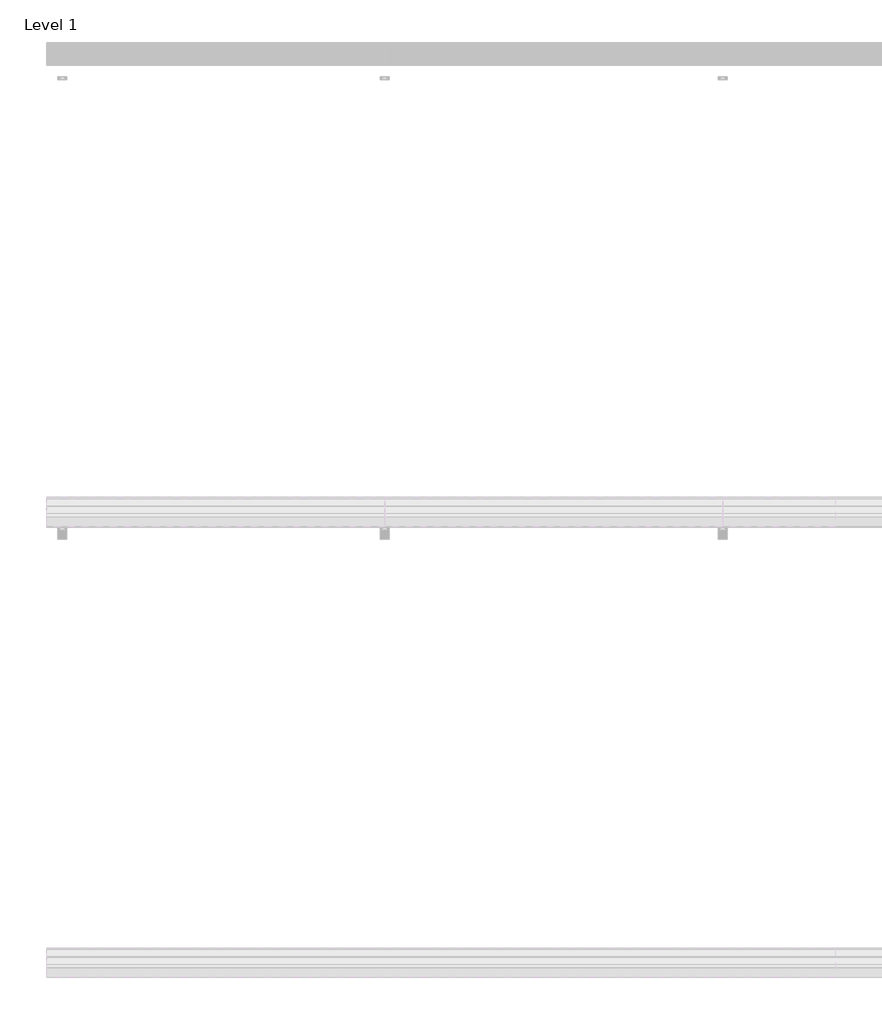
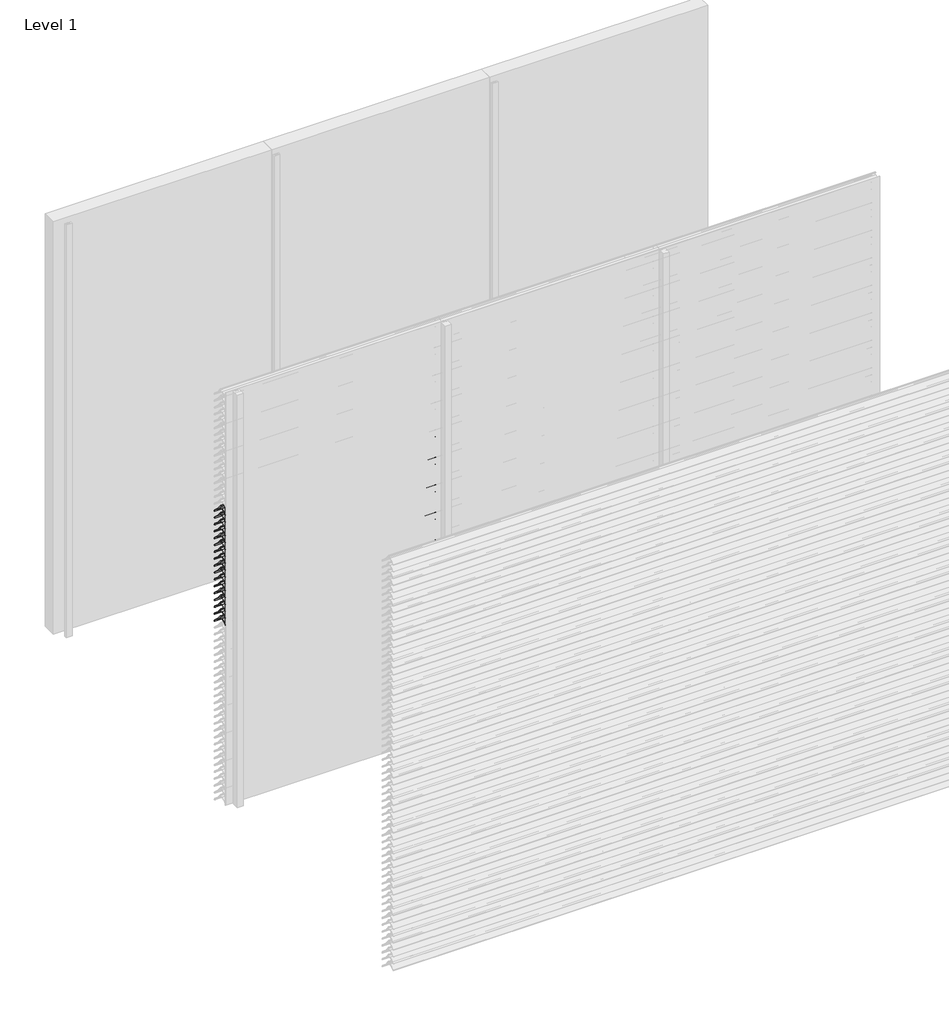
# One storey, part 76 of 173: 17 proxies.
"""IFC4 building model written with IfcOpenShell, lengths in millimetres."""

from ifc_helpers import new_model, si_unit, point, frame, frame_2d, origin, place, context, project, spatial, polyline, circle_curve, trimmed, segment, composite_curve, outline, extrude, element, save

model = new_model("IFC4")

# Units and contexts
model_context = context("Model", 3, world=origin())
ifc_project = project(units=[si_unit("LENGTHUNIT", "METRE", prefix="MILLI")], contexts=[model_context])

# Site, building, storey
site = spatial("IfcSite", under=ifc_project)
building = spatial("IfcBuilding", under=site)
storey = spatial("IfcBuildingStorey", under=building, Name="Level 1", Elevation=0.0)

# Proxies
placement = place(None, origin())
element("IfcBuildingElementProxy", 1, Name="Wall Sweeps", at=placement, inside=storey, context=model_context, shape_type="SweptSolid", body=[
    extrude(outline(composite_curve([segment(polyline([(-29998.0, 2109.1474905), (-29998.0, 2111.6227417)]), True, "CONTINUOUS"), segment(trimmed(circle_curve(frame_2d((-29951.2682172, 2066.2200208)), 65.1557103), [point((-29998.0, 2111.6227417))], [point((-29954.4014323, 2131.3003524))], False, "CARTESIAN"), True, "CONTINUOUS"), segment(polyline([(-29954.4014323, 2131.3003524), (-29934.8315836, 2131.3003524)]), True, "CONTINUOUS"), segment(trimmed(circle_curve(frame_2d((-29732.7329489, 2278.5533172)), 250.0545817), [point((-29934.8315836, 2131.3003524))], [point((-29941.4452143, 2140.8344583))], False, "CARTESIAN"), True, "CONTINUOUS"), segment(trimmed(circle_curve(frame_2d((-29953.2981792, 2135.1737835)), 13.1352966), [point((-29941.4452143, 2140.8344583))], [point((-29953.8171475, 2148.298824))], True, "CARTESIAN"), True, "CONTINUOUS"), segment(polyline([(-29953.8171475, 2148.298824), (-29953.8171475, 2150.0)]), True, "CONTINUOUS"), segment(trimmed(circle_curve(frame_2d((-29953.2981792, 2135.1737835)), 14.8352966), [point((-29953.8171475, 2150.0))], [point((-29939.9637661, 2141.6760487))], False, "CARTESIAN"), True, "CONTINUOUS"), segment(trimmed(circle_curve(frame_2d((-29732.7329489, 2278.5533172)), 248.3545817), [point((-29939.9637661, 2141.6760487))], [point((-29873.8787895, 2074.2059416))], True, "CARTESIAN"), True, "CONTINUOUS"), segment(trimmed(circle_curve(frame_2d((-29883.8147537, 2061.6649442)), 16.0), [point((-29873.8787895, 2074.2059416))], [point((-29867.8648347, 2060.4))], False, "CARTESIAN"), True, "CONTINUOUS"), segment(polyline([(-29867.8648347, 2060.4), (-29869.6712069, 2060.4)]), True, "CONTINUOUS"), segment(trimmed(circle_curve(frame_2d((-29883.8147537, 2061.6649442)), 14.2), [point((-29869.6712069, 2060.4))], [point((-29874.9518628, 2072.7594998))], True, "CARTESIAN"), True, "CONTINUOUS"), segment(trimmed(circle_curve(frame_2d((-29732.7329489, 2278.5533172)), 250.1545817), [point((-29874.9518628, 2072.7594998))], [point((-29933.7064024, 2129.6003524))], False, "CARTESIAN"), True, "CONTINUOUS"), segment(polyline([(-29933.7064024, 2129.6003524), (-29954.3602632, 2129.6003524)]), True, "CONTINUOUS"), segment(trimmed(circle_curve(frame_2d((-29951.2682172, 2066.2200208)), 63.4557103), [point((-29954.3602632, 2129.6003524))], [point((-29998.0, 2109.1474905))], True, "CARTESIAN"), True, "CONTINUOUS")], self_intersect=False)), frame((0.0, 0.0, 0.0), z_axis=(1.0, 0.0, 0.0), x_axis=(0.0, 1.0, 0.0)), (0.0, 0.0, 1.0), 1500.0),
])
element("IfcBuildingElementProxy", 2, Name="Wall Sweeps", at=placement, inside=storey, context=model_context, shape_type="SweptSolid", body=[
    extrude(outline(composite_curve([segment(polyline([(-29998.0, 2059.1474905), (-29998.0, 2061.6227417)]), True, "CONTINUOUS"), segment(trimmed(circle_curve(frame_2d((-29951.2682172, 2016.2200208)), 65.1557103), [point((-29998.0, 2061.6227417))], [point((-29954.4014323, 2081.3003524))], False, "CARTESIAN"), True, "CONTINUOUS"), segment(polyline([(-29954.4014323, 2081.3003524), (-29934.8315836, 2081.3003524)]), True, "CONTINUOUS"), segment(trimmed(circle_curve(frame_2d((-29732.7329489, 2228.5533172)), 250.0545817), [point((-29934.8315836, 2081.3003524))], [point((-29941.4452143, 2090.8344583))], False, "CARTESIAN"), True, "CONTINUOUS"), segment(trimmed(circle_curve(frame_2d((-29953.2981792, 2085.1737835)), 13.1352966), [point((-29941.4452143, 2090.8344583))], [point((-29953.8171475, 2098.298824))], True, "CARTESIAN"), True, "CONTINUOUS"), segment(polyline([(-29953.8171475, 2098.298824), (-29953.8171475, 2100.0)]), True, "CONTINUOUS"), segment(trimmed(circle_curve(frame_2d((-29953.2981792, 2085.1737835)), 14.8352966), [point((-29953.8171475, 2100.0))], [point((-29939.9637661, 2091.6760487))], False, "CARTESIAN"), True, "CONTINUOUS"), segment(trimmed(circle_curve(frame_2d((-29732.7329489, 2228.5533172)), 248.3545817), [point((-29939.9637661, 2091.6760487))], [point((-29873.8787895, 2024.2059416))], True, "CARTESIAN"), True, "CONTINUOUS"), segment(trimmed(circle_curve(frame_2d((-29883.8147537, 2011.6649442)), 16.0), [point((-29873.8787895, 2024.2059416))], [point((-29867.8648347, 2010.4))], False, "CARTESIAN"), True, "CONTINUOUS"), segment(polyline([(-29867.8648347, 2010.4), (-29869.6712069, 2010.4)]), True, "CONTINUOUS"), segment(trimmed(circle_curve(frame_2d((-29883.8147537, 2011.6649442)), 14.2), [point((-29869.6712069, 2010.4))], [point((-29874.9518628, 2022.7594998))], True, "CARTESIAN"), True, "CONTINUOUS"), segment(trimmed(circle_curve(frame_2d((-29732.7329489, 2228.5533172)), 250.1545817), [point((-29874.9518628, 2022.7594998))], [point((-29933.7064024, 2079.6003524))], False, "CARTESIAN"), True, "CONTINUOUS"), segment(polyline([(-29933.7064024, 2079.6003524), (-29954.3602632, 2079.6003524)]), True, "CONTINUOUS"), segment(trimmed(circle_curve(frame_2d((-29951.2682172, 2016.2200208)), 63.4557103), [point((-29954.3602632, 2079.6003524))], [point((-29998.0, 2059.1474905))], True, "CARTESIAN"), True, "CONTINUOUS")], self_intersect=False)), frame((0.0, 0.0, 0.0), z_axis=(1.0, 0.0, 0.0), x_axis=(0.0, 1.0, 0.0)), (0.0, 0.0, 1.0), 1500.0),
])
element("IfcBuildingElementProxy", 3, Name="Wall Sweeps", at=placement, inside=storey, context=model_context, shape_type="SweptSolid", body=[
    extrude(outline(composite_curve([segment(polyline([(-29998.0, 2009.1474905), (-29998.0, 2011.6227417)]), True, "CONTINUOUS"), segment(trimmed(circle_curve(frame_2d((-29951.2682172, 1966.2200208)), 65.1557103), [point((-29998.0, 2011.6227417))], [point((-29954.4014323, 2031.3003524))], False, "CARTESIAN"), True, "CONTINUOUS"), segment(polyline([(-29954.4014323, 2031.3003524), (-29934.8315836, 2031.3003524)]), True, "CONTINUOUS"), segment(trimmed(circle_curve(frame_2d((-29732.7329489, 2178.5533172)), 250.0545817), [point((-29934.8315836, 2031.3003524))], [point((-29941.4452143, 2040.8344583))], False, "CARTESIAN"), True, "CONTINUOUS"), segment(trimmed(circle_curve(frame_2d((-29953.2981792, 2035.1737835)), 13.1352966), [point((-29941.4452143, 2040.8344583))], [point((-29953.8171475, 2048.298824))], True, "CARTESIAN"), True, "CONTINUOUS"), segment(polyline([(-29953.8171475, 2048.298824), (-29953.8171475, 2050.0)]), True, "CONTINUOUS"), segment(trimmed(circle_curve(frame_2d((-29953.2981792, 2035.1737835)), 14.8352966), [point((-29953.8171475, 2050.0))], [point((-29939.9637661, 2041.6760487))], False, "CARTESIAN"), True, "CONTINUOUS"), segment(trimmed(circle_curve(frame_2d((-29732.7329489, 2178.5533172)), 248.3545817), [point((-29939.9637661, 2041.6760487))], [point((-29873.8787895, 1974.2059416))], True, "CARTESIAN"), True, "CONTINUOUS"), segment(trimmed(circle_curve(frame_2d((-29883.8147537, 1961.6649442)), 16.0), [point((-29873.8787895, 1974.2059416))], [point((-29867.8648347, 1960.4))], False, "CARTESIAN"), True, "CONTINUOUS"), segment(polyline([(-29867.8648347, 1960.4), (-29869.6712069, 1960.4)]), True, "CONTINUOUS"), segment(trimmed(circle_curve(frame_2d((-29883.8147537, 1961.6649442)), 14.2), [point((-29869.6712069, 1960.4))], [point((-29874.9518628, 1972.7594998))], True, "CARTESIAN"), True, "CONTINUOUS"), segment(trimmed(circle_curve(frame_2d((-29732.7329489, 2178.5533172)), 250.1545817), [point((-29874.9518628, 1972.7594998))], [point((-29933.7064024, 2029.6003524))], False, "CARTESIAN"), True, "CONTINUOUS"), segment(polyline([(-29933.7064024, 2029.6003524), (-29954.3602632, 2029.6003524)]), True, "CONTINUOUS"), segment(trimmed(circle_curve(frame_2d((-29951.2682172, 1966.2200208)), 63.4557103), [point((-29954.3602632, 2029.6003524))], [point((-29998.0, 2009.1474905))], True, "CARTESIAN"), True, "CONTINUOUS")], self_intersect=False)), frame((0.0, 0.0, 0.0), z_axis=(1.0, 0.0, 0.0), x_axis=(0.0, 1.0, 0.0)), (0.0, 0.0, 1.0), 1500.0),
])
element("IfcBuildingElementProxy", 4, Name="Wall Sweeps", at=placement, inside=storey, context=model_context, shape_type="SweptSolid", body=[
    extrude(outline(composite_curve([segment(polyline([(-29998.0, 1959.1474905), (-29998.0, 1961.6227417)]), True, "CONTINUOUS"), segment(trimmed(circle_curve(frame_2d((-29951.2682172, 1916.2200208)), 65.1557103), [point((-29998.0, 1961.6227417))], [point((-29954.4014323, 1981.3003524))], False, "CARTESIAN"), True, "CONTINUOUS"), segment(polyline([(-29954.4014323, 1981.3003524), (-29934.8315836, 1981.3003524)]), True, "CONTINUOUS"), segment(trimmed(circle_curve(frame_2d((-29732.7329489, 2128.5533172)), 250.0545817), [point((-29934.8315836, 1981.3003524))], [point((-29941.4452143, 1990.8344583))], False, "CARTESIAN"), True, "CONTINUOUS"), segment(trimmed(circle_curve(frame_2d((-29953.2981792, 1985.1737835)), 13.1352966), [point((-29941.4452143, 1990.8344583))], [point((-29953.8171475, 1998.298824))], True, "CARTESIAN"), True, "CONTINUOUS"), segment(polyline([(-29953.8171475, 1998.298824), (-29953.8171475, 2000.0)]), True, "CONTINUOUS"), segment(trimmed(circle_curve(frame_2d((-29953.2981792, 1985.1737835)), 14.8352966), [point((-29953.8171475, 2000.0))], [point((-29939.9637661, 1991.6760487))], False, "CARTESIAN"), True, "CONTINUOUS"), segment(trimmed(circle_curve(frame_2d((-29732.7329489, 2128.5533172)), 248.3545817), [point((-29939.9637661, 1991.6760487))], [point((-29873.8787895, 1924.2059416))], True, "CARTESIAN"), True, "CONTINUOUS"), segment(trimmed(circle_curve(frame_2d((-29883.8147537, 1911.6649442)), 16.0), [point((-29873.8787895, 1924.2059416))], [point((-29867.8648347, 1910.4))], False, "CARTESIAN"), True, "CONTINUOUS"), segment(polyline([(-29867.8648347, 1910.4), (-29869.6712069, 1910.4)]), True, "CONTINUOUS"), segment(trimmed(circle_curve(frame_2d((-29883.8147537, 1911.6649442)), 14.2), [point((-29869.6712069, 1910.4))], [point((-29874.9518628, 1922.7594998))], True, "CARTESIAN"), True, "CONTINUOUS"), segment(trimmed(circle_curve(frame_2d((-29732.7329489, 2128.5533172)), 250.1545817), [point((-29874.9518628, 1922.7594998))], [point((-29933.7064024, 1979.6003524))], False, "CARTESIAN"), True, "CONTINUOUS"), segment(polyline([(-29933.7064024, 1979.6003524), (-29954.3602632, 1979.6003524)]), True, "CONTINUOUS"), segment(trimmed(circle_curve(frame_2d((-29951.2682172, 1916.2200208)), 63.4557103), [point((-29954.3602632, 1979.6003524))], [point((-29998.0, 1959.1474905))], True, "CARTESIAN"), True, "CONTINUOUS")], self_intersect=False)), frame((0.0, 0.0, 0.0), z_axis=(1.0, 0.0, 0.0), x_axis=(0.0, 1.0, 0.0)), (0.0, 0.0, 1.0), 1500.0),
])
element("IfcBuildingElementProxy", 5, Name="Wall Sweeps", at=placement, inside=storey, context=model_context, shape_type="SweptSolid", body=[
    extrude(outline(composite_curve([segment(polyline([(-29998.0, 1909.1474905), (-29998.0, 1911.6227417)]), True, "CONTINUOUS"), segment(trimmed(circle_curve(frame_2d((-29951.2682172, 1866.2200208)), 65.1557103), [point((-29998.0, 1911.6227417))], [point((-29954.4014323, 1931.3003524))], False, "CARTESIAN"), True, "CONTINUOUS"), segment(polyline([(-29954.4014323, 1931.3003524), (-29934.8315836, 1931.3003524)]), True, "CONTINUOUS"), segment(trimmed(circle_curve(frame_2d((-29732.7329489, 2078.5533172)), 250.0545817), [point((-29934.8315836, 1931.3003524))], [point((-29941.4452143, 1940.8344583))], False, "CARTESIAN"), True, "CONTINUOUS"), segment(trimmed(circle_curve(frame_2d((-29953.2981792, 1935.1737835)), 13.1352966), [point((-29941.4452143, 1940.8344583))], [point((-29953.8171475, 1948.298824))], True, "CARTESIAN"), True, "CONTINUOUS"), segment(polyline([(-29953.8171475, 1948.298824), (-29953.8171475, 1950.0)]), True, "CONTINUOUS"), segment(trimmed(circle_curve(frame_2d((-29953.2981792, 1935.1737835)), 14.8352966), [point((-29953.8171475, 1950.0))], [point((-29939.9637661, 1941.6760487))], False, "CARTESIAN"), True, "CONTINUOUS"), segment(trimmed(circle_curve(frame_2d((-29732.7329489, 2078.5533172)), 248.3545817), [point((-29939.9637661, 1941.6760487))], [point((-29873.8787895, 1874.2059416))], True, "CARTESIAN"), True, "CONTINUOUS"), segment(trimmed(circle_curve(frame_2d((-29883.8147537, 1861.6649442)), 16.0), [point((-29873.8787895, 1874.2059416))], [point((-29867.8648347, 1860.4))], False, "CARTESIAN"), True, "CONTINUOUS"), segment(polyline([(-29867.8648347, 1860.4), (-29869.6712069, 1860.4)]), True, "CONTINUOUS"), segment(trimmed(circle_curve(frame_2d((-29883.8147537, 1861.6649442)), 14.2), [point((-29869.6712069, 1860.4))], [point((-29874.9518628, 1872.7594998))], True, "CARTESIAN"), True, "CONTINUOUS"), segment(trimmed(circle_curve(frame_2d((-29732.7329489, 2078.5533172)), 250.1545817), [point((-29874.9518628, 1872.7594998))], [point((-29933.7064024, 1929.6003524))], False, "CARTESIAN"), True, "CONTINUOUS"), segment(polyline([(-29933.7064024, 1929.6003524), (-29954.3602632, 1929.6003524)]), True, "CONTINUOUS"), segment(trimmed(circle_curve(frame_2d((-29951.2682172, 1866.2200208)), 63.4557103), [point((-29954.3602632, 1929.6003524))], [point((-29998.0, 1909.1474905))], True, "CARTESIAN"), True, "CONTINUOUS")], self_intersect=False)), frame((0.0, 0.0, 0.0), z_axis=(1.0, 0.0, 0.0), x_axis=(0.0, 1.0, 0.0)), (0.0, 0.0, 1.0), 1500.0),
])
element("IfcBuildingElementProxy", 6, Name="Wall Sweeps", at=placement, inside=storey, context=model_context, shape_type="SweptSolid", body=[
    extrude(outline(composite_curve([segment(polyline([(-29998.0, 1859.1474905), (-29998.0, 1861.6227417)]), True, "CONTINUOUS"), segment(trimmed(circle_curve(frame_2d((-29951.2682172, 1816.2200208)), 65.1557103), [point((-29998.0, 1861.6227417))], [point((-29954.4014323, 1881.3003524))], False, "CARTESIAN"), True, "CONTINUOUS"), segment(polyline([(-29954.4014323, 1881.3003524), (-29934.8315836, 1881.3003524)]), True, "CONTINUOUS"), segment(trimmed(circle_curve(frame_2d((-29732.7329489, 2028.5533172)), 250.0545817), [point((-29934.8315836, 1881.3003524))], [point((-29941.4452143, 1890.8344583))], False, "CARTESIAN"), True, "CONTINUOUS"), segment(trimmed(circle_curve(frame_2d((-29953.2981792, 1885.1737835)), 13.1352966), [point((-29941.4452143, 1890.8344583))], [point((-29953.8171475, 1898.298824))], True, "CARTESIAN"), True, "CONTINUOUS"), segment(polyline([(-29953.8171475, 1898.298824), (-29953.8171475, 1900.0)]), True, "CONTINUOUS"), segment(trimmed(circle_curve(frame_2d((-29953.2981792, 1885.1737835)), 14.8352966), [point((-29953.8171475, 1900.0))], [point((-29939.9637661, 1891.6760487))], False, "CARTESIAN"), True, "CONTINUOUS"), segment(trimmed(circle_curve(frame_2d((-29732.7329489, 2028.5533172)), 248.3545817), [point((-29939.9637661, 1891.6760487))], [point((-29873.8787895, 1824.2059416))], True, "CARTESIAN"), True, "CONTINUOUS"), segment(trimmed(circle_curve(frame_2d((-29883.8147537, 1811.6649442)), 16.0), [point((-29873.8787895, 1824.2059416))], [point((-29867.8648347, 1810.4))], False, "CARTESIAN"), True, "CONTINUOUS"), segment(polyline([(-29867.8648347, 1810.4), (-29869.6712069, 1810.4)]), True, "CONTINUOUS"), segment(trimmed(circle_curve(frame_2d((-29883.8147537, 1811.6649442)), 14.2), [point((-29869.6712069, 1810.4))], [point((-29874.9518628, 1822.7594998))], True, "CARTESIAN"), True, "CONTINUOUS"), segment(trimmed(circle_curve(frame_2d((-29732.7329489, 2028.5533172)), 250.1545817), [point((-29874.9518628, 1822.7594998))], [point((-29933.7064024, 1879.6003524))], False, "CARTESIAN"), True, "CONTINUOUS"), segment(polyline([(-29933.7064024, 1879.6003524), (-29954.3602632, 1879.6003524)]), True, "CONTINUOUS"), segment(trimmed(circle_curve(frame_2d((-29951.2682172, 1816.2200208)), 63.4557103), [point((-29954.3602632, 1879.6003524))], [point((-29998.0, 1859.1474905))], True, "CARTESIAN"), True, "CONTINUOUS")], self_intersect=False)), frame((0.0, 0.0, 0.0), z_axis=(1.0, 0.0, 0.0), x_axis=(0.0, 1.0, 0.0)), (0.0, 0.0, 1.0), 1500.0),
])
element("IfcBuildingElementProxy", 7, Name="Wall Sweeps", at=placement, inside=storey, context=model_context, shape_type="SweptSolid", body=[
    extrude(outline(composite_curve([segment(polyline([(-29998.0, 1809.1474905), (-29998.0, 1811.6227417)]), True, "CONTINUOUS"), segment(trimmed(circle_curve(frame_2d((-29951.2682172, 1766.2200208)), 65.1557103), [point((-29998.0, 1811.6227417))], [point((-29954.4014323, 1831.3003524))], False, "CARTESIAN"), True, "CONTINUOUS"), segment(polyline([(-29954.4014323, 1831.3003524), (-29934.8315836, 1831.3003524)]), True, "CONTINUOUS"), segment(trimmed(circle_curve(frame_2d((-29732.7329489, 1978.5533172)), 250.0545817), [point((-29934.8315836, 1831.3003524))], [point((-29941.4452143, 1840.8344583))], False, "CARTESIAN"), True, "CONTINUOUS"), segment(trimmed(circle_curve(frame_2d((-29953.2981792, 1835.1737835)), 13.1352966), [point((-29941.4452143, 1840.8344583))], [point((-29953.8171475, 1848.298824))], True, "CARTESIAN"), True, "CONTINUOUS"), segment(polyline([(-29953.8171475, 1848.298824), (-29953.8171475, 1850.0)]), True, "CONTINUOUS"), segment(trimmed(circle_curve(frame_2d((-29953.2981792, 1835.1737835)), 14.8352966), [point((-29953.8171475, 1850.0))], [point((-29939.9637661, 1841.6760487))], False, "CARTESIAN"), True, "CONTINUOUS"), segment(trimmed(circle_curve(frame_2d((-29732.7329489, 1978.5533172)), 248.3545817), [point((-29939.9637661, 1841.6760487))], [point((-29873.8787895, 1774.2059416))], True, "CARTESIAN"), True, "CONTINUOUS"), segment(trimmed(circle_curve(frame_2d((-29883.8147537, 1761.6649442)), 16.0), [point((-29873.8787895, 1774.2059416))], [point((-29867.8648347, 1760.4))], False, "CARTESIAN"), True, "CONTINUOUS"), segment(polyline([(-29867.8648347, 1760.4), (-29869.6712069, 1760.4)]), True, "CONTINUOUS"), segment(trimmed(circle_curve(frame_2d((-29883.8147537, 1761.6649442)), 14.2), [point((-29869.6712069, 1760.4))], [point((-29874.9518628, 1772.7594998))], True, "CARTESIAN"), True, "CONTINUOUS"), segment(trimmed(circle_curve(frame_2d((-29732.7329489, 1978.5533172)), 250.1545817), [point((-29874.9518628, 1772.7594998))], [point((-29933.7064024, 1829.6003524))], False, "CARTESIAN"), True, "CONTINUOUS"), segment(polyline([(-29933.7064024, 1829.6003524), (-29954.3602632, 1829.6003524)]), True, "CONTINUOUS"), segment(trimmed(circle_curve(frame_2d((-29951.2682172, 1766.2200208)), 63.4557103), [point((-29954.3602632, 1829.6003524))], [point((-29998.0, 1809.1474905))], True, "CARTESIAN"), True, "CONTINUOUS")], self_intersect=False)), frame((0.0, 0.0, 0.0), z_axis=(1.0, 0.0, 0.0), x_axis=(0.0, 1.0, 0.0)), (0.0, 0.0, 1.0), 1500.0),
])
element("IfcBuildingElementProxy", 8, Name="Wall Sweeps", at=placement, inside=storey, context=model_context, shape_type="SweptSolid", body=[
    extrude(outline(composite_curve([segment(polyline([(-29998.0, 1759.1474905), (-29998.0, 1761.6227417)]), True, "CONTINUOUS"), segment(trimmed(circle_curve(frame_2d((-29951.2682172, 1716.2200208)), 65.1557103), [point((-29998.0, 1761.6227417))], [point((-29954.4014323, 1781.3003524))], False, "CARTESIAN"), True, "CONTINUOUS"), segment(polyline([(-29954.4014323, 1781.3003524), (-29934.8315836, 1781.3003524)]), True, "CONTINUOUS"), segment(trimmed(circle_curve(frame_2d((-29732.7329489, 1928.5533172)), 250.0545817), [point((-29934.8315836, 1781.3003524))], [point((-29941.4452143, 1790.8344583))], False, "CARTESIAN"), True, "CONTINUOUS"), segment(trimmed(circle_curve(frame_2d((-29953.2981792, 1785.1737835)), 13.1352966), [point((-29941.4452143, 1790.8344583))], [point((-29953.8171475, 1798.298824))], True, "CARTESIAN"), True, "CONTINUOUS"), segment(polyline([(-29953.8171475, 1798.298824), (-29953.8171475, 1800.0)]), True, "CONTINUOUS"), segment(trimmed(circle_curve(frame_2d((-29953.2981792, 1785.1737835)), 14.8352966), [point((-29953.8171475, 1800.0))], [point((-29939.9637661, 1791.6760487))], False, "CARTESIAN"), True, "CONTINUOUS"), segment(trimmed(circle_curve(frame_2d((-29732.7329489, 1928.5533172)), 248.3545817), [point((-29939.9637661, 1791.6760487))], [point((-29873.8787895, 1724.2059416))], True, "CARTESIAN"), True, "CONTINUOUS"), segment(trimmed(circle_curve(frame_2d((-29883.8147537, 1711.6649442)), 16.0), [point((-29873.8787895, 1724.2059416))], [point((-29867.8648347, 1710.4))], False, "CARTESIAN"), True, "CONTINUOUS"), segment(polyline([(-29867.8648347, 1710.4), (-29869.6712069, 1710.4)]), True, "CONTINUOUS"), segment(trimmed(circle_curve(frame_2d((-29883.8147537, 1711.6649442)), 14.2), [point((-29869.6712069, 1710.4))], [point((-29874.9518628, 1722.7594998))], True, "CARTESIAN"), True, "CONTINUOUS"), segment(trimmed(circle_curve(frame_2d((-29732.7329489, 1928.5533172)), 250.1545817), [point((-29874.9518628, 1722.7594998))], [point((-29933.7064024, 1779.6003524))], False, "CARTESIAN"), True, "CONTINUOUS"), segment(polyline([(-29933.7064024, 1779.6003524), (-29954.3602632, 1779.6003524)]), True, "CONTINUOUS"), segment(trimmed(circle_curve(frame_2d((-29951.2682172, 1716.2200208)), 63.4557103), [point((-29954.3602632, 1779.6003524))], [point((-29998.0, 1759.1474905))], True, "CARTESIAN"), True, "CONTINUOUS")], self_intersect=False)), frame((0.0, 0.0, 0.0), z_axis=(1.0, 0.0, 0.0), x_axis=(0.0, 1.0, 0.0)), (0.0, 0.0, 1.0), 1500.0),
])
element("IfcBuildingElementProxy", 9, Name="Wall Sweeps", at=placement, inside=storey, context=model_context, shape_type="SweptSolid", body=[
    extrude(outline(composite_curve([segment(polyline([(-29998.0, 1709.1474905), (-29998.0, 1711.6227417)]), True, "CONTINUOUS"), segment(trimmed(circle_curve(frame_2d((-29951.2682172, 1666.2200208)), 65.1557103), [point((-29998.0, 1711.6227417))], [point((-29954.4014323, 1731.3003524))], False, "CARTESIAN"), True, "CONTINUOUS"), segment(polyline([(-29954.4014323, 1731.3003524), (-29934.8315836, 1731.3003524)]), True, "CONTINUOUS"), segment(trimmed(circle_curve(frame_2d((-29732.7329489, 1878.5533172)), 250.0545817), [point((-29934.8315836, 1731.3003524))], [point((-29941.4452143, 1740.8344583))], False, "CARTESIAN"), True, "CONTINUOUS"), segment(trimmed(circle_curve(frame_2d((-29953.2981792, 1735.1737835)), 13.1352966), [point((-29941.4452143, 1740.8344583))], [point((-29953.8171475, 1748.298824))], True, "CARTESIAN"), True, "CONTINUOUS"), segment(polyline([(-29953.8171475, 1748.298824), (-29953.8171475, 1750.0)]), True, "CONTINUOUS"), segment(trimmed(circle_curve(frame_2d((-29953.2981792, 1735.1737835)), 14.8352966), [point((-29953.8171475, 1750.0))], [point((-29939.9637661, 1741.6760487))], False, "CARTESIAN"), True, "CONTINUOUS"), segment(trimmed(circle_curve(frame_2d((-29732.7329489, 1878.5533172)), 248.3545817), [point((-29939.9637661, 1741.6760487))], [point((-29873.8787895, 1674.2059416))], True, "CARTESIAN"), True, "CONTINUOUS"), segment(trimmed(circle_curve(frame_2d((-29883.8147537, 1661.6649442)), 16.0), [point((-29873.8787895, 1674.2059416))], [point((-29867.8648347, 1660.4))], False, "CARTESIAN"), True, "CONTINUOUS"), segment(polyline([(-29867.8648347, 1660.4), (-29869.6712069, 1660.4)]), True, "CONTINUOUS"), segment(trimmed(circle_curve(frame_2d((-29883.8147537, 1661.6649442)), 14.2), [point((-29869.6712069, 1660.4))], [point((-29874.9518628, 1672.7594998))], True, "CARTESIAN"), True, "CONTINUOUS"), segment(trimmed(circle_curve(frame_2d((-29732.7329489, 1878.5533172)), 250.1545817), [point((-29874.9518628, 1672.7594998))], [point((-29933.7064024, 1729.6003524))], False, "CARTESIAN"), True, "CONTINUOUS"), segment(polyline([(-29933.7064024, 1729.6003524), (-29954.3602632, 1729.6003524)]), True, "CONTINUOUS"), segment(trimmed(circle_curve(frame_2d((-29951.2682172, 1666.2200208)), 63.4557103), [point((-29954.3602632, 1729.6003524))], [point((-29998.0, 1709.1474905))], True, "CARTESIAN"), True, "CONTINUOUS")], self_intersect=False)), frame((0.0, 0.0, 0.0), z_axis=(1.0, 0.0, 0.0), x_axis=(0.0, 1.0, 0.0)), (0.0, 0.0, 1.0), 1500.0),
])
element("IfcBuildingElementProxy", 10, Name="Wall Sweeps", at=placement, inside=storey, context=model_context, shape_type="SweptSolid", body=[
    extrude(outline(composite_curve([segment(polyline([(-29998.0, 1659.1474905), (-29998.0, 1661.6227417)]), True, "CONTINUOUS"), segment(trimmed(circle_curve(frame_2d((-29951.2682172, 1616.2200208)), 65.1557103), [point((-29998.0, 1661.6227417))], [point((-29954.4014323, 1681.3003524))], False, "CARTESIAN"), True, "CONTINUOUS"), segment(polyline([(-29954.4014323, 1681.3003524), (-29934.8315836, 1681.3003524)]), True, "CONTINUOUS"), segment(trimmed(circle_curve(frame_2d((-29732.7329489, 1828.5533172)), 250.0545817), [point((-29934.8315836, 1681.3003524))], [point((-29941.4452143, 1690.8344583))], False, "CARTESIAN"), True, "CONTINUOUS"), segment(trimmed(circle_curve(frame_2d((-29953.2981792, 1685.1737835)), 13.1352966), [point((-29941.4452143, 1690.8344583))], [point((-29953.8171475, 1698.298824))], True, "CARTESIAN"), True, "CONTINUOUS"), segment(polyline([(-29953.8171475, 1698.298824), (-29953.8171475, 1700.0)]), True, "CONTINUOUS"), segment(trimmed(circle_curve(frame_2d((-29953.2981792, 1685.1737835)), 14.8352966), [point((-29953.8171475, 1700.0))], [point((-29939.9637661, 1691.6760487))], False, "CARTESIAN"), True, "CONTINUOUS"), segment(trimmed(circle_curve(frame_2d((-29732.7329489, 1828.5533172)), 248.3545817), [point((-29939.9637661, 1691.6760487))], [point((-29873.8787895, 1624.2059416))], True, "CARTESIAN"), True, "CONTINUOUS"), segment(trimmed(circle_curve(frame_2d((-29883.8147537, 1611.6649442)), 16.0), [point((-29873.8787895, 1624.2059416))], [point((-29867.8648347, 1610.4))], False, "CARTESIAN"), True, "CONTINUOUS"), segment(polyline([(-29867.8648347, 1610.4), (-29869.6712069, 1610.4)]), True, "CONTINUOUS"), segment(trimmed(circle_curve(frame_2d((-29883.8147537, 1611.6649442)), 14.2), [point((-29869.6712069, 1610.4))], [point((-29874.9518628, 1622.7594998))], True, "CARTESIAN"), True, "CONTINUOUS"), segment(trimmed(circle_curve(frame_2d((-29732.7329489, 1828.5533172)), 250.1545817), [point((-29874.9518628, 1622.7594998))], [point((-29933.7064024, 1679.6003524))], False, "CARTESIAN"), True, "CONTINUOUS"), segment(polyline([(-29933.7064024, 1679.6003524), (-29954.3602632, 1679.6003524)]), True, "CONTINUOUS"), segment(trimmed(circle_curve(frame_2d((-29951.2682172, 1616.2200208)), 63.4557103), [point((-29954.3602632, 1679.6003524))], [point((-29998.0, 1659.1474905))], True, "CARTESIAN"), True, "CONTINUOUS")], self_intersect=False)), frame((0.0, 0.0, 0.0), z_axis=(1.0, 0.0, 0.0), x_axis=(0.0, 1.0, 0.0)), (0.0, 0.0, 1.0), 1500.0),
])
element("IfcBuildingElementProxy", 11, Name="Wall Sweeps", at=placement, inside=storey, context=model_context, shape_type="SweptSolid", body=[
    extrude(outline(composite_curve([segment(polyline([(-29998.0, 1609.1474905), (-29998.0, 1611.6227417)]), True, "CONTINUOUS"), segment(trimmed(circle_curve(frame_2d((-29951.2682172, 1566.2200208)), 65.1557103), [point((-29998.0, 1611.6227417))], [point((-29954.4014323, 1631.3003524))], False, "CARTESIAN"), True, "CONTINUOUS"), segment(polyline([(-29954.4014323, 1631.3003524), (-29934.8315836, 1631.3003524)]), True, "CONTINUOUS"), segment(trimmed(circle_curve(frame_2d((-29732.7329489, 1778.5533172)), 250.0545817), [point((-29934.8315836, 1631.3003524))], [point((-29941.4452143, 1640.8344583))], False, "CARTESIAN"), True, "CONTINUOUS"), segment(trimmed(circle_curve(frame_2d((-29953.2981792, 1635.1737835)), 13.1352966), [point((-29941.4452143, 1640.8344583))], [point((-29953.8171475, 1648.298824))], True, "CARTESIAN"), True, "CONTINUOUS"), segment(polyline([(-29953.8171475, 1648.298824), (-29953.8171475, 1650.0)]), True, "CONTINUOUS"), segment(trimmed(circle_curve(frame_2d((-29953.2981792, 1635.1737835)), 14.8352966), [point((-29953.8171475, 1650.0))], [point((-29939.9637661, 1641.6760487))], False, "CARTESIAN"), True, "CONTINUOUS"), segment(trimmed(circle_curve(frame_2d((-29732.7329489, 1778.5533172)), 248.3545817), [point((-29939.9637661, 1641.6760487))], [point((-29873.8787895, 1574.2059416))], True, "CARTESIAN"), True, "CONTINUOUS"), segment(trimmed(circle_curve(frame_2d((-29883.8147537, 1561.6649442)), 16.0), [point((-29873.8787895, 1574.2059416))], [point((-29867.8648347, 1560.4))], False, "CARTESIAN"), True, "CONTINUOUS"), segment(polyline([(-29867.8648347, 1560.4), (-29869.6712069, 1560.4)]), True, "CONTINUOUS"), segment(trimmed(circle_curve(frame_2d((-29883.8147537, 1561.6649442)), 14.2), [point((-29869.6712069, 1560.4))], [point((-29874.9518628, 1572.7594998))], True, "CARTESIAN"), True, "CONTINUOUS"), segment(trimmed(circle_curve(frame_2d((-29732.7329489, 1778.5533172)), 250.1545817), [point((-29874.9518628, 1572.7594998))], [point((-29933.7064024, 1629.6003524))], False, "CARTESIAN"), True, "CONTINUOUS"), segment(polyline([(-29933.7064024, 1629.6003524), (-29954.3602632, 1629.6003524)]), True, "CONTINUOUS"), segment(trimmed(circle_curve(frame_2d((-29951.2682172, 1566.2200208)), 63.4557103), [point((-29954.3602632, 1629.6003524))], [point((-29998.0, 1609.1474905))], True, "CARTESIAN"), True, "CONTINUOUS")], self_intersect=False)), frame((0.0, 0.0, 0.0), z_axis=(1.0, 0.0, 0.0), x_axis=(0.0, 1.0, 0.0)), (0.0, 0.0, 1.0), 1500.0),
])
element("IfcBuildingElementProxy", 12, Name="Wall Sweeps", at=placement, inside=storey, context=model_context, shape_type="SweptSolid", body=[
    extrude(outline(composite_curve([segment(polyline([(-29998.0, 1559.1474905), (-29998.0, 1561.6227417)]), True, "CONTINUOUS"), segment(trimmed(circle_curve(frame_2d((-29951.2682172, 1516.2200208)), 65.1557103), [point((-29998.0, 1561.6227417))], [point((-29954.4014323, 1581.3003524))], False, "CARTESIAN"), True, "CONTINUOUS"), segment(polyline([(-29954.4014323, 1581.3003524), (-29934.8315836, 1581.3003524)]), True, "CONTINUOUS"), segment(trimmed(circle_curve(frame_2d((-29732.7329489, 1728.5533172)), 250.0545817), [point((-29934.8315836, 1581.3003524))], [point((-29941.4452143, 1590.8344583))], False, "CARTESIAN"), True, "CONTINUOUS"), segment(trimmed(circle_curve(frame_2d((-29953.2981792, 1585.1737835)), 13.1352966), [point((-29941.4452143, 1590.8344583))], [point((-29953.8171475, 1598.298824))], True, "CARTESIAN"), True, "CONTINUOUS"), segment(polyline([(-29953.8171475, 1598.298824), (-29953.8171475, 1600.0)]), True, "CONTINUOUS"), segment(trimmed(circle_curve(frame_2d((-29953.2981792, 1585.1737835)), 14.8352966), [point((-29953.8171475, 1600.0))], [point((-29939.9637661, 1591.6760487))], False, "CARTESIAN"), True, "CONTINUOUS"), segment(trimmed(circle_curve(frame_2d((-29732.7329489, 1728.5533172)), 248.3545817), [point((-29939.9637661, 1591.6760487))], [point((-29873.8787895, 1524.2059416))], True, "CARTESIAN"), True, "CONTINUOUS"), segment(trimmed(circle_curve(frame_2d((-29883.8147537, 1511.6649442)), 16.0), [point((-29873.8787895, 1524.2059416))], [point((-29867.8648347, 1510.4))], False, "CARTESIAN"), True, "CONTINUOUS"), segment(polyline([(-29867.8648347, 1510.4), (-29869.6712069, 1510.4)]), True, "CONTINUOUS"), segment(trimmed(circle_curve(frame_2d((-29883.8147537, 1511.6649442)), 14.2), [point((-29869.6712069, 1510.4))], [point((-29874.9518628, 1522.7594998))], True, "CARTESIAN"), True, "CONTINUOUS"), segment(trimmed(circle_curve(frame_2d((-29732.7329489, 1728.5533172)), 250.1545817), [point((-29874.9518628, 1522.7594998))], [point((-29933.7064024, 1579.6003524))], False, "CARTESIAN"), True, "CONTINUOUS"), segment(polyline([(-29933.7064024, 1579.6003524), (-29954.3602632, 1579.6003524)]), True, "CONTINUOUS"), segment(trimmed(circle_curve(frame_2d((-29951.2682172, 1516.2200208)), 63.4557103), [point((-29954.3602632, 1579.6003524))], [point((-29998.0, 1559.1474905))], True, "CARTESIAN"), True, "CONTINUOUS")], self_intersect=False)), frame((0.0, 0.0, 0.0), z_axis=(1.0, 0.0, 0.0), x_axis=(0.0, 1.0, 0.0)), (0.0, 0.0, 1.0), 1500.0),
])
element("IfcBuildingElementProxy", 13, Name="Wall Sweeps", at=placement, inside=storey, context=model_context, shape_type="SweptSolid", body=[
    extrude(outline(composite_curve([segment(polyline([(-29998.0, 1509.1474905), (-29998.0, 1511.6227417)]), True, "CONTINUOUS"), segment(trimmed(circle_curve(frame_2d((-29951.2682172, 1466.2200208)), 65.1557103), [point((-29998.0, 1511.6227417))], [point((-29954.4014323, 1531.3003524))], False, "CARTESIAN"), True, "CONTINUOUS"), segment(polyline([(-29954.4014323, 1531.3003524), (-29934.8315836, 1531.3003524)]), True, "CONTINUOUS"), segment(trimmed(circle_curve(frame_2d((-29732.7329489, 1678.5533172)), 250.0545817), [point((-29934.8315836, 1531.3003524))], [point((-29941.4452143, 1540.8344583))], False, "CARTESIAN"), True, "CONTINUOUS"), segment(trimmed(circle_curve(frame_2d((-29953.2981792, 1535.1737835)), 13.1352966), [point((-29941.4452143, 1540.8344583))], [point((-29953.8171475, 1548.298824))], True, "CARTESIAN"), True, "CONTINUOUS"), segment(polyline([(-29953.8171475, 1548.298824), (-29953.8171475, 1550.0)]), True, "CONTINUOUS"), segment(trimmed(circle_curve(frame_2d((-29953.2981792, 1535.1737835)), 14.8352966), [point((-29953.8171475, 1550.0))], [point((-29939.9637661, 1541.6760487))], False, "CARTESIAN"), True, "CONTINUOUS"), segment(trimmed(circle_curve(frame_2d((-29732.7329489, 1678.5533172)), 248.3545817), [point((-29939.9637661, 1541.6760487))], [point((-29873.8787895, 1474.2059416))], True, "CARTESIAN"), True, "CONTINUOUS"), segment(trimmed(circle_curve(frame_2d((-29883.8147537, 1461.6649442)), 16.0), [point((-29873.8787895, 1474.2059416))], [point((-29867.8648347, 1460.4))], False, "CARTESIAN"), True, "CONTINUOUS"), segment(polyline([(-29867.8648347, 1460.4), (-29869.6712069, 1460.4)]), True, "CONTINUOUS"), segment(trimmed(circle_curve(frame_2d((-29883.8147537, 1461.6649442)), 14.2), [point((-29869.6712069, 1460.4))], [point((-29874.9518628, 1472.7594998))], True, "CARTESIAN"), True, "CONTINUOUS"), segment(trimmed(circle_curve(frame_2d((-29732.7329489, 1678.5533172)), 250.1545817), [point((-29874.9518628, 1472.7594998))], [point((-29933.7064024, 1529.6003524))], False, "CARTESIAN"), True, "CONTINUOUS"), segment(polyline([(-29933.7064024, 1529.6003524), (-29954.3602632, 1529.6003524)]), True, "CONTINUOUS"), segment(trimmed(circle_curve(frame_2d((-29951.2682172, 1466.2200208)), 63.4557103), [point((-29954.3602632, 1529.6003524))], [point((-29998.0, 1509.1474905))], True, "CARTESIAN"), True, "CONTINUOUS")], self_intersect=False)), frame((0.0, 0.0, 0.0), z_axis=(1.0, 0.0, 0.0), x_axis=(0.0, 1.0, 0.0)), (0.0, 0.0, 1.0), 1500.0),
])
element("IfcBuildingElementProxy", 14, Name="Wall Sweeps", at=placement, inside=storey, context=model_context, shape_type="SweptSolid", body=[
    extrude(outline(composite_curve([segment(polyline([(-29998.0, 1459.1474905), (-29998.0, 1461.6227417)]), True, "CONTINUOUS"), segment(trimmed(circle_curve(frame_2d((-29951.2682172, 1416.2200208)), 65.1557103), [point((-29998.0, 1461.6227417))], [point((-29954.4014323, 1481.3003524))], False, "CARTESIAN"), True, "CONTINUOUS"), segment(polyline([(-29954.4014323, 1481.3003524), (-29934.8315836, 1481.3003524)]), True, "CONTINUOUS"), segment(trimmed(circle_curve(frame_2d((-29732.7329489, 1628.5533172)), 250.0545817), [point((-29934.8315836, 1481.3003524))], [point((-29941.4452143, 1490.8344583))], False, "CARTESIAN"), True, "CONTINUOUS"), segment(trimmed(circle_curve(frame_2d((-29953.2981792, 1485.1737835)), 13.1352966), [point((-29941.4452143, 1490.8344583))], [point((-29953.8171475, 1498.298824))], True, "CARTESIAN"), True, "CONTINUOUS"), segment(polyline([(-29953.8171475, 1498.298824), (-29953.8171475, 1500.0)]), True, "CONTINUOUS"), segment(trimmed(circle_curve(frame_2d((-29953.2981792, 1485.1737835)), 14.8352966), [point((-29953.8171475, 1500.0))], [point((-29939.9637661, 1491.6760487))], False, "CARTESIAN"), True, "CONTINUOUS"), segment(trimmed(circle_curve(frame_2d((-29732.7329489, 1628.5533172)), 248.3545817), [point((-29939.9637661, 1491.6760487))], [point((-29873.8787895, 1424.2059416))], True, "CARTESIAN"), True, "CONTINUOUS"), segment(trimmed(circle_curve(frame_2d((-29883.8147537, 1411.6649442)), 16.0), [point((-29873.8787895, 1424.2059416))], [point((-29867.8648347, 1410.4))], False, "CARTESIAN"), True, "CONTINUOUS"), segment(polyline([(-29867.8648347, 1410.4), (-29869.6712069, 1410.4)]), True, "CONTINUOUS"), segment(trimmed(circle_curve(frame_2d((-29883.8147537, 1411.6649442)), 14.2), [point((-29869.6712069, 1410.4))], [point((-29874.9518628, 1422.7594998))], True, "CARTESIAN"), True, "CONTINUOUS"), segment(trimmed(circle_curve(frame_2d((-29732.7329489, 1628.5533172)), 250.1545817), [point((-29874.9518628, 1422.7594998))], [point((-29933.7064024, 1479.6003524))], False, "CARTESIAN"), True, "CONTINUOUS"), segment(polyline([(-29933.7064024, 1479.6003524), (-29954.3602632, 1479.6003524)]), True, "CONTINUOUS"), segment(trimmed(circle_curve(frame_2d((-29951.2682172, 1416.2200208)), 63.4557103), [point((-29954.3602632, 1479.6003524))], [point((-29998.0, 1459.1474905))], True, "CARTESIAN"), True, "CONTINUOUS")], self_intersect=False)), frame((0.0, 0.0, 0.0), z_axis=(1.0, 0.0, 0.0), x_axis=(0.0, 1.0, 0.0)), (0.0, 0.0, 1.0), 1500.0),
])
element("IfcBuildingElementProxy", 15, Name="Wall Sweeps", at=placement, inside=storey, context=model_context, shape_type="SweptSolid", body=[
    extrude(outline(composite_curve([segment(polyline([(-29998.0, 1409.1474905), (-29998.0, 1411.6227417)]), True, "CONTINUOUS"), segment(trimmed(circle_curve(frame_2d((-29951.2682172, 1366.2200208)), 65.1557103), [point((-29998.0, 1411.6227417))], [point((-29954.4014323, 1431.3003524))], False, "CARTESIAN"), True, "CONTINUOUS"), segment(polyline([(-29954.4014323, 1431.3003524), (-29934.8315836, 1431.3003524)]), True, "CONTINUOUS"), segment(trimmed(circle_curve(frame_2d((-29732.7329489, 1578.5533172)), 250.0545817), [point((-29934.8315836, 1431.3003524))], [point((-29941.4452143, 1440.8344583))], False, "CARTESIAN"), True, "CONTINUOUS"), segment(trimmed(circle_curve(frame_2d((-29953.2981792, 1435.1737835)), 13.1352966), [point((-29941.4452143, 1440.8344583))], [point((-29953.8171475, 1448.298824))], True, "CARTESIAN"), True, "CONTINUOUS"), segment(polyline([(-29953.8171475, 1448.298824), (-29953.8171475, 1450.0)]), True, "CONTINUOUS"), segment(trimmed(circle_curve(frame_2d((-29953.2981792, 1435.1737835)), 14.8352966), [point((-29953.8171475, 1450.0))], [point((-29939.9637661, 1441.6760487))], False, "CARTESIAN"), True, "CONTINUOUS"), segment(trimmed(circle_curve(frame_2d((-29732.7329489, 1578.5533172)), 248.3545817), [point((-29939.9637661, 1441.6760487))], [point((-29873.8787895, 1374.2059416))], True, "CARTESIAN"), True, "CONTINUOUS"), segment(trimmed(circle_curve(frame_2d((-29883.8147537, 1361.6649442)), 16.0), [point((-29873.8787895, 1374.2059416))], [point((-29867.8648347, 1360.4))], False, "CARTESIAN"), True, "CONTINUOUS"), segment(polyline([(-29867.8648347, 1360.4), (-29869.6712069, 1360.4)]), True, "CONTINUOUS"), segment(trimmed(circle_curve(frame_2d((-29883.8147537, 1361.6649442)), 14.2), [point((-29869.6712069, 1360.4))], [point((-29874.9518628, 1372.7594998))], True, "CARTESIAN"), True, "CONTINUOUS"), segment(trimmed(circle_curve(frame_2d((-29732.7329489, 1578.5533172)), 250.1545817), [point((-29874.9518628, 1372.7594998))], [point((-29933.7064024, 1429.6003524))], False, "CARTESIAN"), True, "CONTINUOUS"), segment(polyline([(-29933.7064024, 1429.6003524), (-29954.3602632, 1429.6003524)]), True, "CONTINUOUS"), segment(trimmed(circle_curve(frame_2d((-29951.2682172, 1366.2200208)), 63.4557103), [point((-29954.3602632, 1429.6003524))], [point((-29998.0, 1409.1474905))], True, "CARTESIAN"), True, "CONTINUOUS")], self_intersect=False)), frame((0.0, 0.0, 0.0), z_axis=(1.0, 0.0, 0.0), x_axis=(0.0, 1.0, 0.0)), (0.0, 0.0, 1.0), 1500.0),
])
element("IfcBuildingElementProxy", 16, Name="Wall Sweeps", at=placement, inside=storey, context=model_context, shape_type="SweptSolid", body=[
    extrude(outline(composite_curve([segment(polyline([(-29998.0, 1359.1474905), (-29998.0, 1361.6227417)]), True, "CONTINUOUS"), segment(trimmed(circle_curve(frame_2d((-29951.2682172, 1316.2200208)), 65.1557103), [point((-29998.0, 1361.6227417))], [point((-29954.4014323, 1381.3003524))], False, "CARTESIAN"), True, "CONTINUOUS"), segment(polyline([(-29954.4014323, 1381.3003524), (-29934.8315836, 1381.3003524)]), True, "CONTINUOUS"), segment(trimmed(circle_curve(frame_2d((-29732.7329489, 1528.5533172)), 250.0545817), [point((-29934.8315836, 1381.3003524))], [point((-29941.4452143, 1390.8344583))], False, "CARTESIAN"), True, "CONTINUOUS"), segment(trimmed(circle_curve(frame_2d((-29953.2981792, 1385.1737835)), 13.1352966), [point((-29941.4452143, 1390.8344583))], [point((-29953.8171475, 1398.298824))], True, "CARTESIAN"), True, "CONTINUOUS"), segment(polyline([(-29953.8171475, 1398.298824), (-29953.8171475, 1400.0)]), True, "CONTINUOUS"), segment(trimmed(circle_curve(frame_2d((-29953.2981792, 1385.1737835)), 14.8352966), [point((-29953.8171475, 1400.0))], [point((-29939.9637661, 1391.6760487))], False, "CARTESIAN"), True, "CONTINUOUS"), segment(trimmed(circle_curve(frame_2d((-29732.7329489, 1528.5533172)), 248.3545817), [point((-29939.9637661, 1391.6760487))], [point((-29873.8787895, 1324.2059416))], True, "CARTESIAN"), True, "CONTINUOUS"), segment(trimmed(circle_curve(frame_2d((-29883.8147537, 1311.6649442)), 16.0), [point((-29873.8787895, 1324.2059416))], [point((-29867.8648347, 1310.4))], False, "CARTESIAN"), True, "CONTINUOUS"), segment(polyline([(-29867.8648347, 1310.4), (-29869.6712069, 1310.4)]), True, "CONTINUOUS"), segment(trimmed(circle_curve(frame_2d((-29883.8147537, 1311.6649442)), 14.2), [point((-29869.6712069, 1310.4))], [point((-29874.9518628, 1322.7594998))], True, "CARTESIAN"), True, "CONTINUOUS"), segment(trimmed(circle_curve(frame_2d((-29732.7329489, 1528.5533172)), 250.1545817), [point((-29874.9518628, 1322.7594998))], [point((-29933.7064024, 1379.6003524))], False, "CARTESIAN"), True, "CONTINUOUS"), segment(polyline([(-29933.7064024, 1379.6003524), (-29954.3602632, 1379.6003524)]), True, "CONTINUOUS"), segment(trimmed(circle_curve(frame_2d((-29951.2682172, 1316.2200208)), 63.4557103), [point((-29954.3602632, 1379.6003524))], [point((-29998.0, 1359.1474905))], True, "CARTESIAN"), True, "CONTINUOUS")], self_intersect=False)), frame((0.0, 0.0, 0.0), z_axis=(1.0, 0.0, 0.0), x_axis=(0.0, 1.0, 0.0)), (0.0, 0.0, 1.0), 1500.0),
])
element("IfcBuildingElementProxy", 17, Name="Wall Sweeps", at=placement, inside=storey, context=model_context, shape_type="SweptSolid", body=[
    extrude(outline(composite_curve([segment(polyline([(-29998.0, 1309.1474905), (-29998.0, 1311.6227417)]), True, "CONTINUOUS"), segment(trimmed(circle_curve(frame_2d((-29951.2682172, 1266.2200208)), 65.1557103), [point((-29998.0, 1311.6227417))], [point((-29954.4014323, 1331.3003524))], False, "CARTESIAN"), True, "CONTINUOUS"), segment(polyline([(-29954.4014323, 1331.3003524), (-29934.8315836, 1331.3003524)]), True, "CONTINUOUS"), segment(trimmed(circle_curve(frame_2d((-29732.7329489, 1478.5533172)), 250.0545817), [point((-29934.8315836, 1331.3003524))], [point((-29941.4452143, 1340.8344583))], False, "CARTESIAN"), True, "CONTINUOUS"), segment(trimmed(circle_curve(frame_2d((-29953.2981792, 1335.1737835)), 13.1352966), [point((-29941.4452143, 1340.8344583))], [point((-29953.8171475, 1348.298824))], True, "CARTESIAN"), True, "CONTINUOUS"), segment(polyline([(-29953.8171475, 1348.298824), (-29953.8171475, 1350.0)]), True, "CONTINUOUS"), segment(trimmed(circle_curve(frame_2d((-29953.2981792, 1335.1737835)), 14.8352966), [point((-29953.8171475, 1350.0))], [point((-29939.9637661, 1341.6760487))], False, "CARTESIAN"), True, "CONTINUOUS"), segment(trimmed(circle_curve(frame_2d((-29732.7329489, 1478.5533172)), 248.3545817), [point((-29939.9637661, 1341.6760487))], [point((-29873.8787895, 1274.2059416))], True, "CARTESIAN"), True, "CONTINUOUS"), segment(trimmed(circle_curve(frame_2d((-29883.8147537, 1261.6649442)), 16.0), [point((-29873.8787895, 1274.2059416))], [point((-29867.8648347, 1260.4))], False, "CARTESIAN"), True, "CONTINUOUS"), segment(polyline([(-29867.8648347, 1260.4), (-29869.6712069, 1260.4)]), True, "CONTINUOUS"), segment(trimmed(circle_curve(frame_2d((-29883.8147537, 1261.6649442)), 14.2), [point((-29869.6712069, 1260.4))], [point((-29874.9518628, 1272.7594998))], True, "CARTESIAN"), True, "CONTINUOUS"), segment(trimmed(circle_curve(frame_2d((-29732.7329489, 1478.5533172)), 250.1545817), [point((-29874.9518628, 1272.7594998))], [point((-29933.7064024, 1329.6003524))], False, "CARTESIAN"), True, "CONTINUOUS"), segment(polyline([(-29933.7064024, 1329.6003524), (-29954.3602632, 1329.6003524)]), True, "CONTINUOUS"), segment(trimmed(circle_curve(frame_2d((-29951.2682172, 1266.2200208)), 63.4557103), [point((-29954.3602632, 1329.6003524))], [point((-29998.0, 1309.1474905))], True, "CARTESIAN"), True, "CONTINUOUS")], self_intersect=False)), frame((0.0, 0.0, 0.0), z_axis=(1.0, 0.0, 0.0), x_axis=(0.0, 1.0, 0.0)), (0.0, 0.0, 1.0), 1500.0),
])

save(model, "model.ifc")
